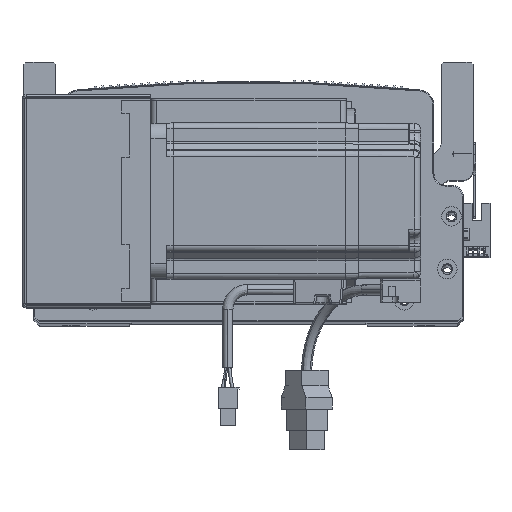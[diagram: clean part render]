
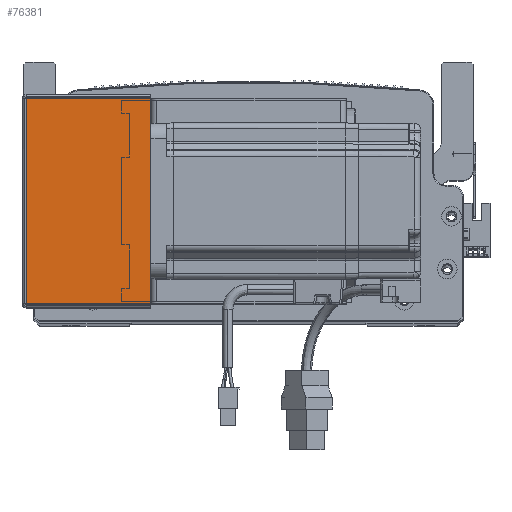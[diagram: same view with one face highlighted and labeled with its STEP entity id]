
A CAD part, top view. The second image highlights one B-rep face of the part: STEP entity #76381.
In plain terms, the highlighted planar face has unit normal (0, 0, 1) as drawn and (0, 0, -1) by its records, which use the part's own axes.
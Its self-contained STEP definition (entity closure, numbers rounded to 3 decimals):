
#1225 = CARTESIAN_POINT ( 'NONE',  ( 64.5, 0.707, -205.5 ) ) ;
#1809 = DIRECTION ( 'NONE',  ( 1., 0., 0. ) ) ;
#3356 = DIRECTION ( 'NONE',  ( 1., 0., 0. ) ) ;
#3691 = VECTOR ( 'NONE', #15335, 1000. ) ;
#5560 = VECTOR ( 'NONE', #80291, 1000. ) ;
#9328 = EDGE_CURVE ( 'NONE', #83427, #30185, #25702, .T. ) ;
#13566 = EDGE_CURVE ( 'NONE', #57515, #66315, #74858, .T. ) ;
#15335 = DIRECTION ( 'NONE',  ( 0., -1., 0. ) ) ;
#15468 = ORIENTED_EDGE ( 'NONE', *, *, #9328, .F. ) ;
#16637 = CARTESIAN_POINT ( 'NONE',  ( 0.737, 105.293, -205.5 ) ) ;
#21148 = CARTESIAN_POINT ( 'NONE',  ( 0.737, 0.707, -205.5 ) ) ;
#21708 = DIRECTION ( 'NONE',  ( 1., 0., 0. ) ) ;
#22279 = DIRECTION ( 'NONE',  ( 0., 0., 1. ) ) ;
#25702 = LINE ( 'NONE', #80783, #47999 ) ;
#27557 = CARTESIAN_POINT ( 'NONE',  ( 0., 105.293, -205.5 ) ) ;
#30008 = LINE ( 'NONE', #73483, #3691 ) ;
#30123 = VECTOR ( 'NONE', #1809, 1000. ) ;
#30185 = VERTEX_POINT ( 'NONE', #1225 ) ;
#30895 = LINE ( 'NONE', #79729, #5560 ) ;
#34148 = ORIENTED_EDGE ( 'NONE', *, *, #82107, .F. ) ;
#34438 = CARTESIAN_POINT ( 'NONE',  ( 0., 0., -205.5 ) ) ;
#36925 = EDGE_CURVE ( 'NONE', #66315, #30185, #30008, .T. ) ;
#39357 = AXIS2_PLACEMENT_3D ( 'NONE', #34438, #22279, #21708 ) ;
#40134 = FACE_OUTER_BOUND ( 'NONE', #51587, .T. ) ;
#47999 = VECTOR ( 'NONE', #3356, 1000. ) ;
#51587 = EDGE_LOOP ( 'NONE', ( #34148, #70643, #67479, #15468 ) ) ;
#57515 = VERTEX_POINT ( 'NONE', #16637 ) ;
#60814 = PLANE ( 'NONE',  #39357 ) ;
#63402 = CARTESIAN_POINT ( 'NONE',  ( 64.5, 105.293, -205.5 ) ) ;
#66315 = VERTEX_POINT ( 'NONE', #63402 ) ;
#67479 = ORIENTED_EDGE ( 'NONE', *, *, #36925, .T. ) ;
#70643 = ORIENTED_EDGE ( 'NONE', *, *, #13566, .T. ) ;
#73483 = CARTESIAN_POINT ( 'NONE',  ( 64.5, 0., -205.5 ) ) ;
#74858 = LINE ( 'NONE', #27557, #30123 ) ;
#76381 = ADVANCED_FACE ( 'NONE', ( #40134 ), #60814, .F. ) ;
#79729 = CARTESIAN_POINT ( 'NONE',  ( 0.737, 0., -205.5 ) ) ;
#80291 = DIRECTION ( 'NONE',  ( 0., -1., 0. ) ) ;
#80783 = CARTESIAN_POINT ( 'NONE',  ( 0., 0.707, -205.5 ) ) ;
#82107 = EDGE_CURVE ( 'NONE', #57515, #83427, #30895, .T. ) ;
#83427 = VERTEX_POINT ( 'NONE', #21148 ) ;
